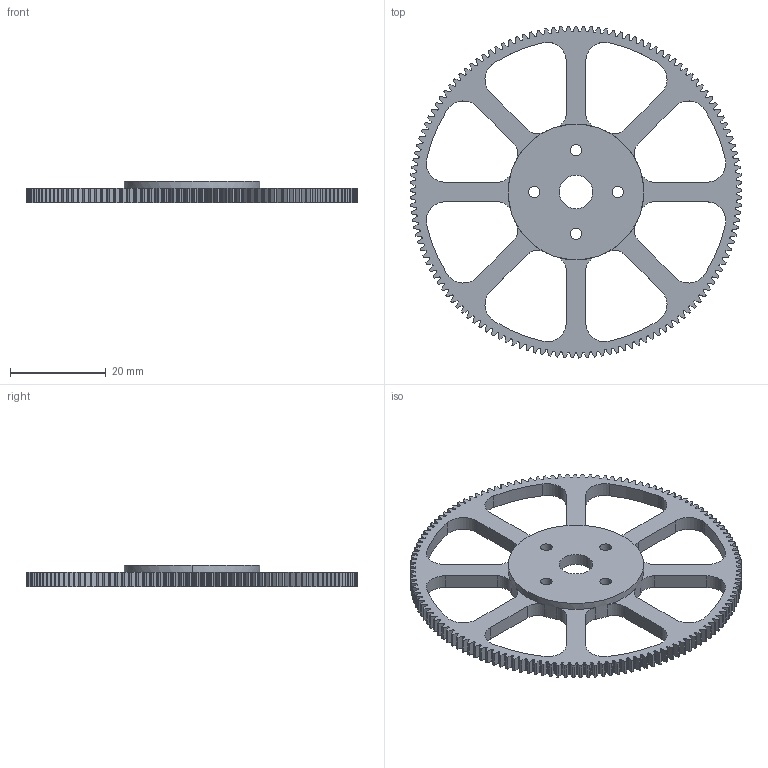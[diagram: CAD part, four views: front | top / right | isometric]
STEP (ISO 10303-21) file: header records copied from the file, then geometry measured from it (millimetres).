
FILE_DESCRIPTION (( 'STEP AP203' ), '1' );
FILE_NAME ('Engrenage hélicoptère.STEP', '2021-10-27T18:32:09', ( '' ), ( '' ), 'SwSTEP 2.0', 'SolidWorks 2019', '' );
FILE_SCHEMA (( 'CONFIG_CONTROL_DESIGN' ));
Length unit declared in the file: millimetre
Products named in the file (1): Engrenage h幨icopt鋨e
Bounding box: 69.5 x 69.49 x 4.5 mm (x, y, z)
Volume: 5077.2 mm3; surface area: 6521.6 mm2
Topology: 1 solids, 1 shells, 956 faces, 2880 edges, 1920 vertices
Faces by surface type: cylinder 662, bspline 274, plane 20
Entity records: 35853 total; most frequent: CARTESIAN_POINT 10415, ORIENTED_EDGE 5760, DIRECTION 5038, EDGE_CURVE 2880, AXIS2_PLACEMENT_3D 2023, VERTEX_POINT 1920, CIRCLE 1340, LINE 992
